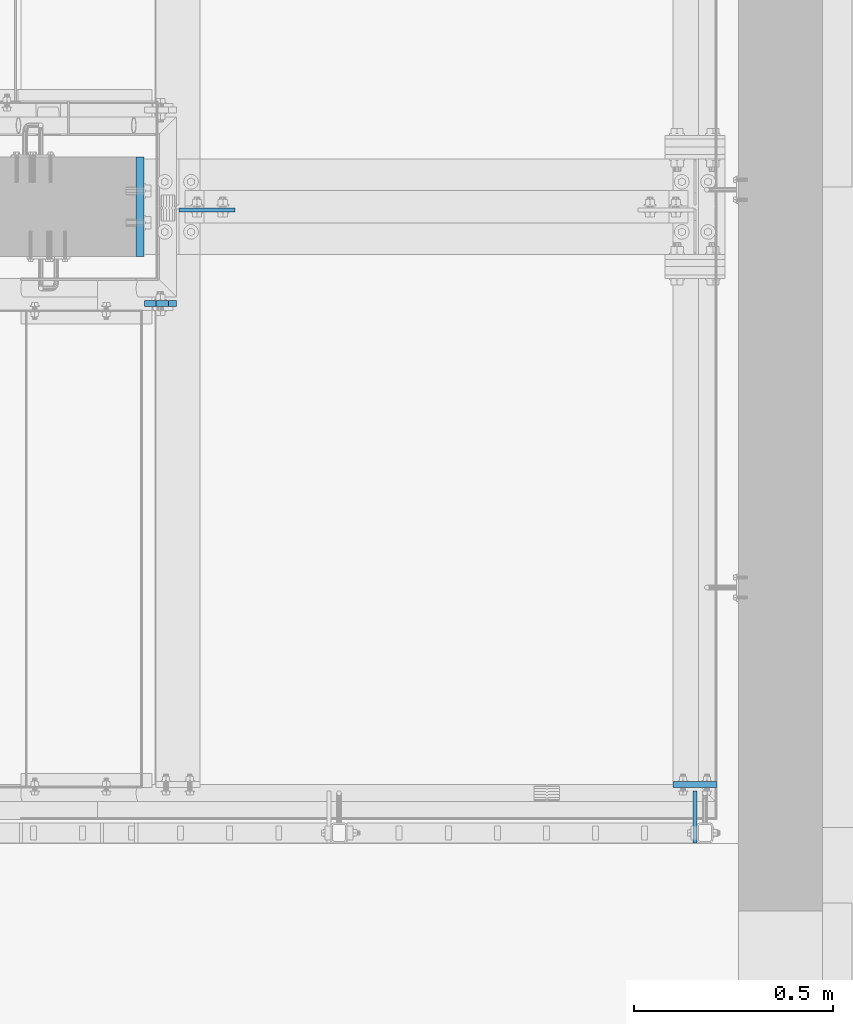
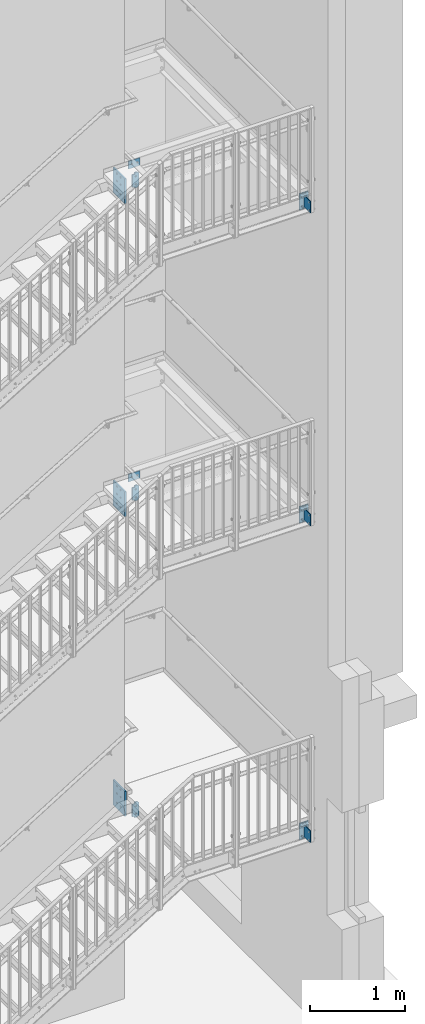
# One storey, part 62 of 410: 14 plates, 70 openings.
"""IFC2X3 building model written with IfcOpenShell, lengths in millimetres."""

import ifcopenshell
import ifcopenshell.guid

model = None  # the IFC model being written
_history = None  # IfcOwnerHistory: only IFC2X3 demands one
_inside = {}  # id of a spatial element -> (the spatial element, [elements in it])
_under = {}  # id of a project, library or spatial element -> (it, [spatial elements below it])
_declared = {}  # id of a project -> (the project, [libraries it declares])
_typed = {}  # id of a type object -> (the type object, [elements of that type])
_made_of = {}  # id of a material, layer set ... -> (it, [elements and type objects made of it])


def new_model(schema):
    """Start an empty IFC model of exactly this schema.

    Asked for "IFC4X3", IfcOpenShell would pick the latest addendum, in which some entities
    have other attributes; the version numbers below select the first issue.
    IFC2X3 requires an IfcOwnerHistory on every rooted entity: one is made here for all.
    """
    global model, _history
    if schema == "IFC4X3":
        model = ifcopenshell.file(schema_version=(4, 3, 0, 0))
    else:
        model = ifcopenshell.file(schema=schema)
    _inside.clear()
    _under.clear()
    _declared.clear()
    _typed.clear()
    _made_of.clear()
    _history = None
    if model.schema == "IFC2X3":
        org = make("IfcOrganization", Name="unknown")
        user = make(
            "IfcPersonAndOrganization",
            ThePerson=make("IfcPerson", FamilyName="unknown"),
            TheOrganization=org,
        )
        app = make(
            "IfcApplication",
            ApplicationDeveloper=org,
            Version="unknown",
            ApplicationFullName="unknown",
            ApplicationIdentifier="unknown",
        )
        _history = make(
            "IfcOwnerHistory",
            OwningUser=user,
            OwningApplication=app,
            ChangeAction="ADDED",
            CreationDate=0,
        )
    return model


def make(cls, **values):
    """One entity of the class cls with the attributes given. An attribute that is None is left unset."""
    return model.create_entity(
        cls, **{name: value for name, value in values.items() if value is not None}
    )


def entity(cls, *values):
    """Any entity or typed value of the class cls, its attributes in the order of the schema. None: left unset."""
    e = model.create_entity(cls)
    for i, value in enumerate(values):
        if value is not None:
            e[i] = value
    return e


def rooted(cls, **values):
    """An entity with a GlobalId (a new one), such as an element, a storey or a relation."""
    return make(cls, GlobalId=ifcopenshell.guid.new(), OwnerHistory=_history, **values)


def si_unit(unit_type, name, prefix=None):
    """IfcSIUnit, for example si_unit("LENGTHUNIT", "METRE", prefix="MILLI")."""
    return make("IfcSIUnit", UnitType=unit_type, Prefix=prefix, Name=name)


def converted_unit(unit_type, name, factor, base, dimensions=None, offset=None):
    """IfcConversionBasedUnit, such as the inch: factor (a typed value) times the base unit."""
    return make(
        "IfcConversionBasedUnit"
        if offset is None
        else "IfcConversionBasedUnitWithOffset",
        ConversionOffset=offset,
        Dimensions=None
        if dimensions is None
        else entity("IfcDimensionalExponents", *dimensions),
        UnitType=unit_type,
        Name=name,
        ConversionFactor=make(
            "IfcMeasureWithUnit", ValueComponent=factor, UnitComponent=base
        ),
    )


def assignment(units):
    """IfcUnitAssignment: the units of a project."""
    return None if units is None else make("IfcUnitAssignment", Units=units)


def point(xyz):
    """IfcCartesianPoint."""
    return None if xyz is None else make("IfcCartesianPoint", Coordinates=xyz)


def direction(xyz):
    """IfcDirection."""
    return None if xyz is None else make("IfcDirection", DirectionRatios=xyz)


def frame(location, z_axis=None, x_axis=None):
    """IfcAxis2Placement3D, a coordinate frame: its origin and axes. An axis left out is left unset."""
    return make(
        "IfcAxis2Placement3D",
        Location=point(location),
        Axis=direction(z_axis),
        RefDirection=direction(x_axis),
    )


def frame_2d(location, x_axis=None):
    """IfcAxis2Placement2D, a coordinate frame in the plane: its origin and x axis."""
    return make(
        "IfcAxis2Placement2D", Location=point(location), RefDirection=direction(x_axis)
    )


def origin():
    """The frame at (0, 0, 0) with its axes left unset."""
    return frame((0.0, 0.0, 0.0))


def origin_with_axes():
    """The frame at (0, 0, 0) with the z axis (0, 0, 1) and the x axis (1, 0, 0) written out."""
    return frame((0.0, 0.0, 0.0), z_axis=(0.0, 0.0, 1.0), x_axis=(1.0, 0.0, 0.0))


def origin_2d_with_axis():
    """The frame at (0, 0) in the plane with the x axis (1, 0) written out."""
    return frame_2d((0.0, 0.0), x_axis=(1.0, 0.0))


def place(relative_to, where):
    """IfcLocalPlacement: puts the frame where relative to a parent placement (None: the world)."""
    return make(
        "IfcLocalPlacement", PlacementRelTo=relative_to, RelativePlacement=where
    )


def context(
    kind, dimensions, precision=None, world=None, true_north=None, identifier=None
):
    """IfcGeometricRepresentationContext, for example the 3D "Model" context."""
    return make(
        "IfcGeometricRepresentationContext",
        ContextIdentifier=identifier,
        ContextType=kind,
        CoordinateSpaceDimension=dimensions,
        Precision=precision,
        WorldCoordinateSystem=world,
        TrueNorth=true_north,
    )


def project(units=None, contexts=None):
    """IfcProject with its units and contexts."""
    return rooted(
        "IfcProject",
        Name="project",
        RepresentationContexts=contexts,
        UnitsInContext=assignment(units),
    )


def spatial(cls, under=None, at=None, **own):
    """A site, building, storey or space (cls), placed at a placement, below another one or the project."""
    s = rooted(cls, ObjectPlacement=at, **own)
    if under is not None:
        _under.setdefault(under.id(), (under, []))[1].append(s)
    return s


def polyline(points):
    """IfcPolyline through the points."""
    return make("IfcPolyline", Points=[point(p) for p in points])


def profile(cls, at=None, kind="AREA", **sizes):
    """A parametric profile (cls). Its sizes go by their IFC names, for example OverallWidth=200.0."""
    return make(cls, ProfileType=kind, Position=at, **sizes)


def circle(**sizes):
    """IfcCircleProfileDef."""
    return profile("IfcCircleProfileDef", **sizes)


def outline(outer, holes=None, kind="AREA"):
    """IfcArbitraryClosedProfileDef: a profile drawn as a closed curve; with holes, ...WithVoids."""
    if holes is None:
        return make("IfcArbitraryClosedProfileDef", ProfileType=kind, OuterCurve=outer)
    return make(
        "IfcArbitraryProfileDefWithVoids",
        ProfileType=kind,
        OuterCurve=outer,
        InnerCurves=holes,
    )


def extrude(swept, where, along, depth):
    """IfcExtrudedAreaSolid: the profile swept, set in the frame where, extruded along a direction by depth."""
    return make(
        "IfcExtrudedAreaSolid",
        SweptArea=swept,
        Position=where,
        ExtrudedDirection=direction(along),
        Depth=depth,
    )


def shape(context_of_items, identifier, shape_type, items):
    """IfcShapeRepresentation: the items that make up one representation, for example the "Body"."""
    return make(
        "IfcShapeRepresentation",
        ContextOfItems=context_of_items,
        RepresentationIdentifier=identifier,
        RepresentationType=shape_type,
        Items=items,
    )


def material(Name=None, Category=None):
    """IfcMaterial."""
    return make("IfcMaterial", Name=Name, Category=Category)


def layer(
    of_material, thickness, ventilated=None, Name=None, Category=None, Priority=None
):
    """IfcMaterialLayer: one layer of a wall or slab, of a material (None: an air gap)."""
    return make(
        "IfcMaterialLayer",
        Material=of_material,
        LayerThickness=thickness,
        IsVentilated=ventilated,
        Name=Name,
        Category=Category,
        Priority=Priority,
    )


def layer_set(layers, Name=None):
    """IfcMaterialLayerSet."""
    return make("IfcMaterialLayerSet", MaterialLayers=layers, LayerSetName=Name)


def made_of(thing, what):
    """Note that an element or type object is made of a material, layer set ...; save() writes the relation."""
    if what is not None:
        _made_of.setdefault(what.id(), (what, []))[1].append(thing)
    return thing


def element(
    cls,
    number,
    at=None,
    inside=None,
    cuts=None,
    type_object=None,
    material=None,
    context=None,
    identifier="Body",
    shape_type=None,
    held_by="IfcProductDefinitionShape",
    body=None,
    shapes=None,
    **own,
):
    """One element of the class cls, such as IfcWall. Its Tag is "e" and its number.

    at: its placement. inside: the storey or other place that contains it. cuts: it is an
    opening in that element (IfcRelVoidsElement). A single representation is given by context,
    identifier, shape_type and body (its items); several are given by shapes. held_by: the class
    of the entity that holds the representations. save() writes the other relations.
    """
    e = rooted(cls, Tag="e%d" % number, ObjectPlacement=at, **own)
    if body is not None:
        shapes = [shape(context, identifier, shape_type, body)]
    if shapes is not None:
        e.Representation = make(held_by, Representations=shapes)
    if inside is not None:
        _inside.setdefault(inside.id(), (inside, []))[1].append(e)
    if cuts is not None:
        rooted(
            "IfcRelVoidsElement", RelatingBuildingElement=cuts, RelatedOpeningElement=e
        )
    if type_object is not None:
        _typed.setdefault(type_object.id(), (type_object, []))[1].append(e)
    return made_of(e, material)


def aggregate(whole, parts):
    """IfcRelAggregates: a whole, such as a stair, and the parts it consists of."""
    return rooted("IfcRelAggregates", RelatingObject=whole, RelatedObjects=parts)


def save(model, path):
    """Write the relations noted so far, then the file.

    IfcRelAggregates (storeys below a building ...), IfcRelContainedInSpatialStructure (elements
    in a storey), IfcRelDefinesByType, IfcRelAssociatesMaterial and IfcRelDeclares: one each for
    every whole, place, type object, material and project.
    """
    for whole, parts in _under.values():
        aggregate(whole, parts)
    for where, things in _inside.values():
        rooted(
            "IfcRelContainedInSpatialStructure",
            RelatedElements=things,
            RelatingStructure=where,
        )
    for kind, things in _typed.values():
        rooted("IfcRelDefinesByType", RelatedObjects=things, RelatingType=kind)
    for what, things in _made_of.values():
        rooted("IfcRelAssociatesMaterial", RelatedObjects=things, RelatingMaterial=what)
    for by, libraries in _declared.values():
        rooted("IfcRelDeclares", RelatingContext=by, RelatedDefinitions=libraries)
    model.write(path)


model = new_model("IFC2X3")

# Units and contexts
model_context = context("Model", 3, precision=1e-09, world=origin_with_axes())
ifc_project = project(units=[si_unit("LENGTHUNIT", "METRE", prefix="MILLI"), si_unit("AREAUNIT", "SQUARE_METRE"), si_unit("VOLUMEUNIT", "CUBIC_METRE"), converted_unit("PLANEANGLEUNIT", "DEGREE", entity("IfcPlaneAngleMeasure", 0.01745329), si_unit("PLANEANGLEUNIT", "RADIAN"), dimensions=[0, 0, 0, 0, 0, 0, 0])], contexts=[model_context])

# Site, building, storey
site_placement = place(None, origin_with_axes())
site = spatial("IfcSite", under=ifc_project, at=site_placement, Name="mKR Teilneubau & Sanierung BA1 - Ostfildern", CompositionType="ELEMENT")
building_placement = place(site_placement, origin_with_axes())
building = spatial("IfcBuilding", under=site, at=building_placement, Name="Struktur 1", CompositionType="ELEMENT")
storey_placement = place(building_placement, origin_with_axes())
storey = spatial("IfcBuildingStorey", under=building, at=storey_placement, Name="Default Storey", CompositionType="ELEMENT", Elevation=0.0)

# Plate, openings
ifc_material = material(Name="S235JR")
ifc_layer_1 = layer(ifc_material, 20.0)
ifc_layer_set_1 = layer_set([ifc_layer_1], Name="S235JR")
plate_1_placement = place(None, frame((1775.0, 16980.0, 1543.0434785), z_axis=(-1.0, 0.0, 0.0), x_axis=(0.0, -1.0, 0.0)))
plate_1 = element("IfcPlate", 1, at=plate_1_placement, inside=storey, material=ifc_layer_set_1, Name="-", ObjectType="-", context=model_context, shape_type="SweptSolid", body=[
    extrude(outline(polyline([(-125.0, -160.0), (125.0, -160.0), (125.0, 160.0), (-125.0, 160.0), (-125.0, -160.0)])), origin_with_axes(), (0.0, 0.0, -1.0), 20.0),
])
opening_1_placement = place(plate_1_placement, frame((-50.501, -85.0, 0.5), z_axis=(0.0, 0.0, 1.0), x_axis=(1.0, 0.0, 0.0)))
element("IfcOpeningElement", 2, at=opening_1_placement, cuts=plate_1, ObjectType="Opening", context=model_context, shape_type="SweptSolid", body=[
    extrude(circle(Radius=10.501, at=frame_2d((10.501, 0.0), x_axis=(1.0, 0.0))), origin(), (0.0, 0.0, -1.0), 21.0),
])
opening_2_placement = place(plate_1_placement, frame((29.499, 35.0, 0.5), z_axis=(0.0, 0.0, 1.0), x_axis=(1.0, 0.0, 0.0)))
element("IfcOpeningElement", 3, at=opening_2_placement, cuts=plate_1, ObjectType="Opening", context=model_context, shape_type="SweptSolid", body=[
    extrude(circle(Radius=10.501, at=frame_2d((10.501, 0.0), x_axis=(1.0, 0.0))), origin(), (0.0, 0.0, -1.0), 21.0),
])
opening_3_placement = place(plate_1_placement, frame((-50.501, 35.0, 0.5), z_axis=(0.0, 0.0, 1.0), x_axis=(1.0, 0.0, 0.0)))
element("IfcOpeningElement", 4, at=opening_3_placement, cuts=plate_1, ObjectType="Opening", context=model_context, shape_type="SweptSolid", body=[
    extrude(circle(Radius=10.501, at=frame_2d((10.501, 0.0), x_axis=(1.0, 0.0))), origin(), (0.0, 0.0, -1.0), 21.0),
])
opening_4_placement = place(plate_1_placement, frame((29.499, 130.0, 0.5), z_axis=(0.0, 0.0, 1.0), x_axis=(1.0, 0.0, 0.0)))
element("IfcOpeningElement", 5, at=opening_4_placement, cuts=plate_1, ObjectType="Opening", context=model_context, shape_type="SweptSolid", body=[
    extrude(circle(Radius=10.501, at=frame_2d((10.501, 0.0), x_axis=(1.0, 0.0))), origin(), (0.0, 0.0, -1.0), 21.0),
])
opening_5_placement = place(plate_1_placement, frame((-50.501, 130.0, 0.5), z_axis=(0.0, 0.0, 1.0), x_axis=(1.0, 0.0, 0.0)))
element("IfcOpeningElement", 6, at=opening_5_placement, cuts=plate_1, ObjectType="Opening", context=model_context, shape_type="SweptSolid", body=[
    extrude(circle(Radius=10.501, at=frame_2d((10.501, 0.0), x_axis=(1.0, 0.0))), origin(), (0.0, 0.0, -1.0), 21.0),
])
opening_6_placement = place(plate_1_placement, frame((29.499, -85.0, 0.5), z_axis=(0.0, 0.0, 1.0), x_axis=(1.0, 0.0, 0.0)))
element("IfcOpeningElement", 7, at=opening_6_placement, cuts=plate_1, ObjectType="Opening", context=model_context, shape_type="SweptSolid", body=[
    extrude(circle(Radius=10.501, at=frame_2d((10.501, 0.0), x_axis=(1.0, 0.0))), origin(), (0.0, 0.0, -1.0), 21.0),
])

plate_2_placement = place(None, frame((1775.0, 16980.0, -2295.599999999), z_axis=(-1.0, 0.0, 0.0), x_axis=(0.0, -1.0, 0.0)))
plate_2 = element("IfcPlate", 8, at=plate_2_placement, inside=storey, material=ifc_layer_set_1, Name="-", ObjectType="-", context=model_context, shape_type="SweptSolid", body=[
    extrude(outline(polyline([(-125.0, -160.0), (125.0, -160.0), (125.0, 160.0), (-125.0, 160.0), (-125.0, -160.0)])), origin_with_axes(), (0.0, 0.0, -1.0), 20.0),
])
opening_7_placement = place(plate_2_placement, frame((-50.501, 35.0, 0.5), z_axis=(0.0, 0.0, 1.0), x_axis=(1.0, 0.0, 0.0)))
element("IfcOpeningElement", 9, at=opening_7_placement, cuts=plate_2, ObjectType="Opening", context=model_context, shape_type="SweptSolid", body=[
    extrude(circle(Radius=10.501, at=frame_2d((10.501, 0.0), x_axis=(1.0, 0.0))), origin(), (0.0, 0.0, -1.0), 21.0),
])
opening_8_placement = place(plate_2_placement, frame((29.499, 35.0, 0.5), z_axis=(0.0, 0.0, 1.0), x_axis=(1.0, 0.0, 0.0)))
element("IfcOpeningElement", 10, at=opening_8_placement, cuts=plate_2, ObjectType="Opening", context=model_context, shape_type="SweptSolid", body=[
    extrude(circle(Radius=10.501, at=frame_2d((10.501, 0.0), x_axis=(1.0, 0.0))), origin(), (0.0, 0.0, -1.0), 21.0),
])
opening_9_placement = place(plate_2_placement, frame((29.499, -85.0, 0.5), z_axis=(0.0, 0.0, 1.0), x_axis=(1.0, 0.0, 0.0)))
element("IfcOpeningElement", 11, at=opening_9_placement, cuts=plate_2, ObjectType="Opening", context=model_context, shape_type="SweptSolid", body=[
    extrude(circle(Radius=10.501, at=frame_2d((10.501, 0.0), x_axis=(1.0, 0.0))), origin(), (0.0, 0.0, -1.0), 21.0),
])
opening_10_placement = place(plate_2_placement, frame((-50.501, -85.0, 0.5), z_axis=(0.0, 0.0, 1.0), x_axis=(1.0, 0.0, 0.0)))
element("IfcOpeningElement", 12, at=opening_10_placement, cuts=plate_2, ObjectType="Opening", context=model_context, shape_type="SweptSolid", body=[
    extrude(circle(Radius=10.501, at=frame_2d((10.501, 0.0), x_axis=(1.0, 0.0))), origin(), (0.0, 0.0, -1.0), 21.0),
])
opening_11_placement = place(plate_2_placement, frame((-50.501, 130.0, 0.5), z_axis=(0.0, 0.0, 1.0), x_axis=(1.0, 0.0, 0.0)))
element("IfcOpeningElement", 13, at=opening_11_placement, cuts=plate_2, ObjectType="Opening", context=model_context, shape_type="SweptSolid", body=[
    extrude(circle(Radius=10.501, at=frame_2d((10.501, 0.0), x_axis=(1.0, 0.0))), origin(), (0.0, 0.0, -1.0), 21.0),
])
opening_12_placement = place(plate_2_placement, frame((29.499, 130.0, 0.5), z_axis=(0.0, 0.0, 1.0), x_axis=(1.0, 0.0, 0.0)))
element("IfcOpeningElement", 14, at=opening_12_placement, cuts=plate_2, ObjectType="Opening", context=model_context, shape_type="SweptSolid", body=[
    extrude(circle(Radius=10.501, at=frame_2d((10.501, 0.0), x_axis=(1.0, 0.0))), origin(), (0.0, 0.0, -1.0), 21.0),
])

ifc_layer_2 = layer(ifc_material, 15.0)
ifc_layer_set_2 = layer_set([ifc_layer_2], Name="S235JR")
plate_3_placement = place(None, frame((3180.001468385, 15535.0, 5755.000000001), z_axis=(0.0, -1.0, 0.0), x_axis=(1.0, 0.0, 0.0)))
plate_3 = element("IfcPlate", 15, at=plate_3_placement, inside=storey, material=ifc_layer_set_2, Name="-", ObjectType="-", context=model_context, shape_type="SweptSolid", body=[
    extrude(outline(polyline([(-55.0, -105.0), (55.0, -105.0), (55.0, 105.0), (-55.0, 105.0), (-55.0, -105.0)])), origin_with_axes(), (0.0, 0.0, 1.0), 15.0),
])
opening_13_placement = place(plate_3_placement, frame((2.9e-08, 1.5e-08, -0.5), z_axis=(0.0, 0.0, 1.0), x_axis=(1.0, 0.0, 0.0)))
element("IfcOpeningElement", 16, at=opening_13_placement, cuts=plate_3, ObjectType="Opening", context=model_context, shape_type="SweptSolid", body=[
    extrude(circle(Radius=7.001, at=frame_2d((30.0, 60.0), x_axis=(1.0, 0.0))), origin(), (0.0, 0.0, 1.0), 16.0),
])
opening_14_placement = place(plate_3_placement, frame((2.9e-08, 1.5e-08, -0.5), z_axis=(0.0, 0.0, 1.0), x_axis=(1.0, 0.0, 0.0)))
element("IfcOpeningElement", 17, at=opening_14_placement, cuts=plate_3, ObjectType="Opening", context=model_context, shape_type="SweptSolid", body=[
    extrude(circle(Radius=7.001, at=frame_2d((-30.0, 60.0), x_axis=(1.0, 0.0))), origin(), (0.0, 0.0, 1.0), 16.0),
])
opening_15_placement = place(plate_3_placement, frame((2.9e-08, 1.5e-08, -0.5), z_axis=(0.0, 0.0, 1.0), x_axis=(1.0, 0.0, 0.0)))
element("IfcOpeningElement", 18, at=opening_15_placement, cuts=plate_3, ObjectType="Opening", context=model_context, shape_type="SweptSolid", body=[
    extrude(circle(Radius=7.001, at=frame_2d((30.0, -60.0), x_axis=(1.0, 0.0))), origin(), (0.0, 0.0, 1.0), 16.0),
])
opening_16_placement = place(plate_3_placement, frame((2.9e-08, 1.5e-08, -0.5), z_axis=(0.0, 0.0, 1.0), x_axis=(1.0, 0.0, 0.0)))
element("IfcOpeningElement", 19, at=opening_16_placement, cuts=plate_3, ObjectType="Opening", context=model_context, shape_type="SweptSolid", body=[
    extrude(circle(Radius=7.001, at=frame_2d((-30.0, -60.0), x_axis=(1.0, 0.0))), origin(), (0.0, 0.0, 1.0), 16.0),
])
opening_17_placement = place(plate_3_placement, frame((14.95, 88.8, 15.5), z_axis=(0.0, 0.0, -1.0), x_axis=(0.0, 1.0, 0.0)))
element("IfcOpeningElement", 20, at=opening_17_placement, cuts=plate_3, ObjectType="Opening", context=model_context, shape_type="SweptSolid", body=[
    extrude(circle(Radius=6.001, at=origin_2d_with_axis()), origin(), (0.0, 0.0, 1.0), 16.0),
])
opening_18_placement = place(plate_3_placement, frame((14.95, -88.8, 15.5), z_axis=(0.0, 0.0, -1.0), x_axis=(0.0, 1.0, 0.0)))
element("IfcOpeningElement", 21, at=opening_18_placement, cuts=plate_3, ObjectType="Opening", context=model_context, shape_type="SweptSolid", body=[
    extrude(circle(Radius=6.001, at=origin_2d_with_axis()), origin(), (0.0, 0.0, 1.0), 16.0),
])
opening_19_placement = place(plate_3_placement, frame((-14.95, -88.8, 15.5), z_axis=(0.0, 0.0, -1.0), x_axis=(0.0, 1.0, 0.0)))
element("IfcOpeningElement", 22, at=opening_19_placement, cuts=plate_3, ObjectType="Opening", context=model_context, shape_type="SweptSolid", body=[
    extrude(circle(Radius=6.001, at=origin_2d_with_axis()), origin(), (0.0, 0.0, 1.0), 16.0),
])
opening_20_placement = place(plate_3_placement, frame((-14.95, 88.8, 15.5), z_axis=(0.0, 0.0, -1.0), x_axis=(0.0, 1.0, 0.0)))
element("IfcOpeningElement", 23, at=opening_20_placement, cuts=plate_3, ObjectType="Opening", context=model_context, shape_type="SweptSolid", body=[
    extrude(circle(Radius=6.001, at=origin_2d_with_axis()), origin(), (0.0, 0.0, 1.0), 16.0),
])

plate_4_placement = place(None, frame((3180.001468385, 15535.000000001, -2315.599999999), z_axis=(0.0, -1.0, 0.0), x_axis=(1.0, 0.0, 0.0)))
plate_4 = element("IfcPlate", 24, at=plate_4_placement, inside=storey, material=ifc_layer_set_2, Name="-", ObjectType="-", context=model_context, shape_type="SweptSolid", body=[
    extrude(outline(polyline([(-55.0, -105.0), (55.0, -105.0), (55.0, 105.0), (-55.0, 105.0), (-55.0, -105.0)])), origin_with_axes(), (0.0, 0.0, 1.0), 15.0),
])
opening_21_placement = place(plate_4_placement, frame((2.9e-08, 1.5e-08, -0.5), z_axis=(0.0, 0.0, 1.0), x_axis=(1.0, 0.0, 0.0)))
element("IfcOpeningElement", 25, at=opening_21_placement, cuts=plate_4, ObjectType="Opening", context=model_context, shape_type="SweptSolid", body=[
    extrude(circle(Radius=7.001, at=frame_2d((30.0, 60.0), x_axis=(1.0, 0.0))), origin(), (0.0, 0.0, 1.0), 16.0),
])
opening_22_placement = place(plate_4_placement, frame((2.9e-08, 1.5e-08, -0.5), z_axis=(0.0, 0.0, 1.0), x_axis=(1.0, 0.0, 0.0)))
element("IfcOpeningElement", 26, at=opening_22_placement, cuts=plate_4, ObjectType="Opening", context=model_context, shape_type="SweptSolid", body=[
    extrude(circle(Radius=7.001, at=frame_2d((-30.0, 60.0), x_axis=(1.0, 0.0))), origin(), (0.0, 0.0, 1.0), 16.0),
])
opening_23_placement = place(plate_4_placement, frame((2.9e-08, 1.5e-08, -0.5), z_axis=(0.0, 0.0, 1.0), x_axis=(1.0, 0.0, 0.0)))
element("IfcOpeningElement", 27, at=opening_23_placement, cuts=plate_4, ObjectType="Opening", context=model_context, shape_type="SweptSolid", body=[
    extrude(circle(Radius=7.001, at=frame_2d((30.0, -60.0), x_axis=(1.0, 0.0))), origin(), (0.0, 0.0, 1.0), 16.0),
])
opening_24_placement = place(plate_4_placement, frame((2.9e-08, 1.5e-08, -0.5), z_axis=(0.0, 0.0, 1.0), x_axis=(1.0, 0.0, 0.0)))
element("IfcOpeningElement", 28, at=opening_24_placement, cuts=plate_4, ObjectType="Opening", context=model_context, shape_type="SweptSolid", body=[
    extrude(circle(Radius=7.001, at=frame_2d((-30.0, -60.0), x_axis=(1.0, 0.0))), origin(), (0.0, 0.0, 1.0), 16.0),
])
opening_25_placement = place(plate_4_placement, frame((14.95, 88.8, 15.5), z_axis=(0.0, 0.0, -1.0), x_axis=(0.0, 1.0, 0.0)))
element("IfcOpeningElement", 29, at=opening_25_placement, cuts=plate_4, ObjectType="Opening", context=model_context, shape_type="SweptSolid", body=[
    extrude(circle(Radius=6.001, at=origin_2d_with_axis()), origin(), (0.0, 0.0, 1.0), 16.0),
])
opening_26_placement = place(plate_4_placement, frame((14.95, -88.8, 15.5), z_axis=(0.0, 0.0, -1.0), x_axis=(0.0, 1.0, 0.0)))
element("IfcOpeningElement", 30, at=opening_26_placement, cuts=plate_4, ObjectType="Opening", context=model_context, shape_type="SweptSolid", body=[
    extrude(circle(Radius=6.001, at=origin_2d_with_axis()), origin(), (0.0, 0.0, 1.0), 16.0),
])
opening_27_placement = place(plate_4_placement, frame((-14.95, -88.8, 15.5), z_axis=(0.0, 0.0, -1.0), x_axis=(0.0, 1.0, 0.0)))
element("IfcOpeningElement", 31, at=opening_27_placement, cuts=plate_4, ObjectType="Opening", context=model_context, shape_type="SweptSolid", body=[
    extrude(circle(Radius=6.001, at=origin_2d_with_axis()), origin(), (0.0, 0.0, 1.0), 16.0),
])
opening_28_placement = place(plate_4_placement, frame((-14.95, 88.8, 15.5), z_axis=(0.0, 0.0, -1.0), x_axis=(0.0, 1.0, 0.0)))
element("IfcOpeningElement", 32, at=opening_28_placement, cuts=plate_4, ObjectType="Opening", context=model_context, shape_type="SweptSolid", body=[
    extrude(circle(Radius=6.001, at=origin_2d_with_axis()), origin(), (0.0, 0.0, 1.0), 16.0),
])

plate_5_placement = place(None, frame((1876.051468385, 16728.999999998, -2216.299999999), z_axis=(0.0, -1.0, 0.0), x_axis=(-1.0, 0.0, 0.0)))
plate_5 = element("IfcPlate", 33, at=plate_5_placement, inside=storey, material=ifc_layer_set_2, Name="LugPlate#1", ObjectType="LugPlate#1", context=model_context, shape_type="SweptSolid", body=[
    extrude(outline(polyline([(0.0, 0.0), (80.0, 0.0), (80.0, 198.6), (0.0, 198.6), (0.0, 0.0)])), origin_with_axes(), (0.0, 0.0, -1.0), 15.0),
])
opening_29_placement = place(plate_5_placement, frame((0.0, 0.0, 0.01), z_axis=(0.0, 0.0, 1.0), x_axis=(1.0, 0.0, 0.0)))
element("IfcOpeningElement", 34, at=opening_29_placement, cuts=plate_5, ObjectType="Opening", context=model_context, shape_type="SweptSolid", body=[
    extrude(outline(polyline([(0.0, 0.0), (20.0, 0.0), (0.0, 20.0), (0.0, 0.0)])), origin(), (0.0, 0.0, -1.0), 15.02),
])
opening_30_placement = place(plate_5_placement, frame((0.0, 198.6, 0.01), z_axis=(0.0, 0.0, 1.0), x_axis=(0.0, -1.0, 0.0)))
element("IfcOpeningElement", 35, at=opening_30_placement, cuts=plate_5, ObjectType="Opening", context=model_context, shape_type="SweptSolid", body=[
    extrude(outline(polyline([(0.0, 0.0), (20.0, 0.0), (0.0, 20.0), (0.0, 0.0)])), origin(), (0.0, 0.0, -1.0), 15.02),
])
opening_31_placement = place(plate_5_placement, frame((98.349872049, 19.301, -15.1), z_axis=(0.0, 0.0, -1.0), x_axis=(0.0, -1.0, 0.0)))
element("IfcOpeningElement", 36, at=opening_31_placement, cuts=plate_5, ObjectType="Opening", context=model_context, shape_type="SweptSolid", body=[
    extrude(outline(polyline([(0.0, 0.0), (30.001999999, 0.0), (30.001999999, 47.300872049), (0.0, 47.300872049), (0.0, 0.0)])), origin(), (0.0, 0.0, -1.0), 15.2),
])
opening_32_placement = place(plate_5_placement, frame((97.567889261, 209.301, -15.1), z_axis=(0.0, 0.0, -1.0), x_axis=(0.0, -1.0, 0.0)))
element("IfcOpeningElement", 37, at=opening_32_placement, cuts=plate_5, ObjectType="Opening", context=model_context, shape_type="SweptSolid", body=[
    extrude(outline(polyline([(0.0, 0.0), (30.002, 0.0), (30.002, 46.518889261), (0.0, 46.518889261), (0.0, 0.0)])), origin(), (0.0, 0.0, -1.0), 15.2),
])
opening_33_placement = place(plate_5_placement, frame((40.0, 49.300000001, -15.5), z_axis=(0.0, 0.0, 1.0), x_axis=(1.0, 0.0, 0.0)))
element("IfcOpeningElement", 38, at=opening_33_placement, cuts=plate_5, ObjectType="Opening", context=model_context, shape_type="SweptSolid", body=[
    extrude(circle(Radius=9.001, at=frame_2d((0.0, 100.0), x_axis=(1.0, 0.0))), origin(), (0.0, 0.0, 1.0), 16.0),
])
opening_34_placement = place(plate_5_placement, frame((40.0, 49.300000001, -15.5), z_axis=(0.0, 0.0, 1.0), x_axis=(1.0, 0.0, 0.0)))
element("IfcOpeningElement", 39, at=opening_34_placement, cuts=plate_5, ObjectType="Opening", context=model_context, shape_type="SweptSolid", body=[
    extrude(circle(Radius=9.001, at=origin_2d_with_axis()), origin(), (0.0, 0.0, 1.0), 16.0),
])

plate_6_placement = place(None, frame((1876.051468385, 16728.999999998, 1842.3434785), z_axis=(0.0, -1.0, 0.0), x_axis=(-1.0, 0.0, 0.0)))
plate_6 = element("IfcPlate", 40, at=plate_6_placement, inside=storey, material=ifc_layer_set_2, Name="LugPlate#1", ObjectType="LugPlate#1", context=model_context, shape_type="SweptSolid", body=[
    extrude(outline(polyline([(0.0, 0.0), (80.0, 0.0), (80.0, 198.6), (0.0, 198.6), (0.0, 0.0)])), origin_with_axes(), (0.0, 0.0, -1.0), 15.0),
])
opening_35_placement = place(plate_6_placement, frame((0.0, 0.0, 0.01), z_axis=(0.0, 0.0, 1.0), x_axis=(1.0, 0.0, 0.0)))
element("IfcOpeningElement", 41, at=opening_35_placement, cuts=plate_6, ObjectType="Opening", context=model_context, shape_type="SweptSolid", body=[
    extrude(outline(polyline([(0.0, 0.0), (20.0, 0.0), (0.0, 20.0), (0.0, 0.0)])), origin(), (0.0, 0.0, -1.0), 15.02),
])
opening_36_placement = place(plate_6_placement, frame((0.0, 198.6, 0.01), z_axis=(0.0, 0.0, 1.0), x_axis=(0.0, -1.0, 0.0)))
element("IfcOpeningElement", 42, at=opening_36_placement, cuts=plate_6, ObjectType="Opening", context=model_context, shape_type="SweptSolid", body=[
    extrude(outline(polyline([(0.0, 0.0), (20.0, 0.0), (0.0, 20.0), (0.0, 0.0)])), origin(), (0.0, 0.0, -1.0), 15.02),
])
opening_37_placement = place(plate_6_placement, frame((100.429268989, 19.301, -15.1), z_axis=(0.0, 0.0, -1.0), x_axis=(0.0, -1.0, 0.0)))
element("IfcOpeningElement", 43, at=opening_37_placement, cuts=plate_6, ObjectType="Opening", context=model_context, shape_type="SweptSolid", body=[
    extrude(outline(polyline([(0.0, 0.0), (30.001999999, 0.0), (30.001999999, 49.380268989), (0.0, 49.380268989), (0.0, 0.0)])), origin(), (0.0, 0.0, -1.0), 15.2),
])
opening_38_placement = place(plate_6_placement, frame((114.515390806, 209.301, -15.1), z_axis=(0.0, 0.0, -1.0), x_axis=(0.0, -1.0, 0.0)))
element("IfcOpeningElement", 44, at=opening_38_placement, cuts=plate_6, ObjectType="Opening", context=model_context, shape_type="SweptSolid", body=[
    extrude(outline(polyline([(0.0, 0.0), (30.002, 0.0), (30.002, 63.466390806), (0.0, 63.466390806), (0.0, 0.0)])), origin(), (0.0, 0.0, -1.0), 15.2),
])
opening_39_placement = place(plate_6_placement, frame((40.0, 49.300000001, -15.5), z_axis=(0.0, 0.0, 1.0), x_axis=(1.0, 0.0, 0.0)))
element("IfcOpeningElement", 45, at=opening_39_placement, cuts=plate_6, ObjectType="Opening", context=model_context, shape_type="SweptSolid", body=[
    extrude(circle(Radius=9.001, at=frame_2d((0.0, 100.0), x_axis=(1.0, 0.0))), origin(), (0.0, 0.0, 1.0), 16.0),
])
opening_40_placement = place(plate_6_placement, frame((40.0, 49.300000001, -15.5), z_axis=(0.0, 0.0, 1.0), x_axis=(1.0, 0.0, 0.0)))
element("IfcOpeningElement", 46, at=opening_40_placement, cuts=plate_6, ObjectType="Opening", context=model_context, shape_type="SweptSolid", body=[
    extrude(circle(Radius=9.001, at=origin_2d_with_axis()), origin(), (0.0, 0.0, 1.0), 16.0),
])

plate_7_placement = place(None, frame((1876.051468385, 16728.999999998, 5854.300000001), z_axis=(0.0, -1.0, 0.0), x_axis=(-1.0, 0.0, 0.0)))
plate_7 = element("IfcPlate", 47, at=plate_7_placement, inside=storey, material=ifc_layer_set_2, Name="LugPlate#1", ObjectType="LugPlate#1", context=model_context, shape_type="SweptSolid", body=[
    extrude(outline(polyline([(0.0, 0.0), (80.0, 0.0), (80.0, 198.6), (0.0, 198.6), (0.0, 0.0)])), origin_with_axes(), (0.0, 0.0, -1.0), 15.0),
])
opening_41_placement = place(plate_7_placement, frame((0.0, 0.0, 0.01), z_axis=(0.0, 0.0, 1.0), x_axis=(1.0, 0.0, 0.0)))
element("IfcOpeningElement", 48, at=opening_41_placement, cuts=plate_7, ObjectType="Opening", context=model_context, shape_type="SweptSolid", body=[
    extrude(outline(polyline([(0.0, 0.0), (20.0, 0.0), (0.0, 20.0), (0.0, 0.0)])), origin(), (0.0, 0.0, -1.0), 15.02),
])
opening_42_placement = place(plate_7_placement, frame((0.0, 198.6, 0.01), z_axis=(0.0, 0.0, 1.0), x_axis=(0.0, -1.0, 0.0)))
element("IfcOpeningElement", 49, at=opening_42_placement, cuts=plate_7, ObjectType="Opening", context=model_context, shape_type="SweptSolid", body=[
    extrude(outline(polyline([(0.0, 0.0), (20.0, 0.0), (0.0, 20.0), (0.0, 0.0)])), origin(), (0.0, 0.0, -1.0), 15.02),
])
opening_43_placement = place(plate_7_placement, frame((99.857709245, 209.301, -15.1), z_axis=(0.0, 0.0, -1.0), x_axis=(0.0, -1.0, 0.0)))
element("IfcOpeningElement", 50, at=opening_43_placement, cuts=plate_7, ObjectType="Opening", context=model_context, shape_type="SweptSolid", body=[
    extrude(outline(polyline([(0.0, 0.0), (30.002, 0.0), (30.002, 48.808709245), (0.0, 48.808709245), (0.0, 0.0)])), origin(), (0.0, 0.0, -1.0), 15.2),
])
opening_44_placement = place(plate_7_placement, frame((95.314579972, 19.301, -15.1), z_axis=(0.0, 0.0, -1.0), x_axis=(0.0, -1.0, 0.0)))
element("IfcOpeningElement", 51, at=opening_44_placement, cuts=plate_7, ObjectType="Opening", context=model_context, shape_type="SweptSolid", body=[
    extrude(outline(polyline([(0.0, 0.0), (30.001999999, 0.0), (30.001999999, 44.265579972), (0.0, 44.265579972), (0.0, 0.0)])), origin(), (0.0, 0.0, -1.0), 15.2),
])
opening_45_placement = place(plate_7_placement, frame((40.0, 49.300000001, -15.5), z_axis=(0.0, 0.0, 1.0), x_axis=(1.0, 0.0, 0.0)))
element("IfcOpeningElement", 52, at=opening_45_placement, cuts=plate_7, ObjectType="Opening", context=model_context, shape_type="SweptSolid", body=[
    extrude(circle(Radius=9.001, at=frame_2d((0.0, 100.0), x_axis=(1.0, 0.0))), origin(), (0.0, 0.0, 1.0), 16.0),
])
opening_46_placement = place(plate_7_placement, frame((40.0, 49.300000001, -15.5), z_axis=(0.0, 0.0, 1.0), x_axis=(1.0, 0.0, 0.0)))
element("IfcOpeningElement", 53, at=opening_46_placement, cuts=plate_7, ObjectType="Opening", context=model_context, shape_type="SweptSolid", body=[
    extrude(circle(Radius=9.001, at=origin_2d_with_axis()), origin(), (0.0, 0.0, 1.0), 16.0),
])

plate_8_placement = place(None, frame((1775.0, 16980.0, 5555.0), z_axis=(-1.0, 0.0, 0.0), x_axis=(0.0, -1.0, 0.0)))
plate_8 = element("IfcPlate", 54, at=plate_8_placement, inside=storey, material=ifc_layer_set_1, Name="-", ObjectType="-", context=model_context, shape_type="SweptSolid", body=[
    extrude(outline(polyline([(-125.0, -160.0), (125.0, -160.0), (125.0, 160.0), (-125.0, 160.0), (-125.0, -160.0)])), origin_with_axes(), (0.0, 0.0, -1.0), 20.0),
])
opening_47_placement = place(plate_8_placement, frame((29.499, -85.0, 0.5), z_axis=(0.0, 0.0, 1.0), x_axis=(1.0, 0.0, 0.0)))
element("IfcOpeningElement", 55, at=opening_47_placement, cuts=plate_8, ObjectType="Opening", context=model_context, shape_type="SweptSolid", body=[
    extrude(circle(Radius=10.501, at=frame_2d((10.501, 0.0), x_axis=(1.0, 0.0))), origin(), (0.0, 0.0, -1.0), 21.0),
])
opening_48_placement = place(plate_8_placement, frame((-50.501, 130.0, 0.5), z_axis=(0.0, 0.0, 1.0), x_axis=(1.0, 0.0, 0.0)))
element("IfcOpeningElement", 56, at=opening_48_placement, cuts=plate_8, ObjectType="Opening", context=model_context, shape_type="SweptSolid", body=[
    extrude(circle(Radius=10.501, at=frame_2d((10.501, 0.0), x_axis=(1.0, 0.0))), origin(), (0.0, 0.0, -1.0), 21.0),
])
opening_49_placement = place(plate_8_placement, frame((29.499, 130.0, 0.5), z_axis=(0.0, 0.0, 1.0), x_axis=(1.0, 0.0, 0.0)))
element("IfcOpeningElement", 57, at=opening_49_placement, cuts=plate_8, ObjectType="Opening", context=model_context, shape_type="SweptSolid", body=[
    extrude(circle(Radius=10.501, at=frame_2d((10.501, 0.0), x_axis=(1.0, 0.0))), origin(), (0.0, 0.0, -1.0), 21.0),
])
opening_50_placement = place(plate_8_placement, frame((-50.501, 35.0, 0.5), z_axis=(0.0, 0.0, 1.0), x_axis=(1.0, 0.0, 0.0)))
element("IfcOpeningElement", 58, at=opening_50_placement, cuts=plate_8, ObjectType="Opening", context=model_context, shape_type="SweptSolid", body=[
    extrude(circle(Radius=10.501, at=frame_2d((10.501, 0.0), x_axis=(1.0, 0.0))), origin(), (0.0, 0.0, -1.0), 21.0),
])
opening_51_placement = place(plate_8_placement, frame((29.499, 35.0, 0.5), z_axis=(0.0, 0.0, 1.0), x_axis=(1.0, 0.0, 0.0)))
element("IfcOpeningElement", 59, at=opening_51_placement, cuts=plate_8, ObjectType="Opening", context=model_context, shape_type="SweptSolid", body=[
    extrude(circle(Radius=10.501, at=frame_2d((10.501, 0.0), x_axis=(1.0, 0.0))), origin(), (0.0, 0.0, -1.0), 21.0),
])
opening_52_placement = place(plate_8_placement, frame((-50.501, -85.0, 0.5), z_axis=(0.0, 0.0, 1.0), x_axis=(1.0, 0.0, 0.0)))
element("IfcOpeningElement", 60, at=opening_52_placement, cuts=plate_8, ObjectType="Opening", context=model_context, shape_type="SweptSolid", body=[
    extrude(circle(Radius=10.501, at=frame_2d((10.501, 0.0), x_axis=(1.0, 0.0))), origin(), (0.0, 0.0, -1.0), 21.0),
])

ifc_layer_3 = layer(ifc_material, 10.0)
ifc_layer_set_3 = layer_set([ifc_layer_3], Name="S235JR")
plate_9_placement = place(None, frame((1952.951468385, 16977.5, 1773.0434785), z_axis=(0.0, -1.0, 0.0), x_axis=(1.0, 0.0, 0.0)))
plate_9 = element("IfcPlate", 61, at=plate_9_placement, inside=storey, material=ifc_layer_set_3, Name="-", ObjectType="-", context=model_context, shape_type="SweptSolid", body=[
    extrude(outline(polyline([(-70.0, -50.0), (70.0, -50.0), (70.0, 50.0), (-70.0, 50.0), (-70.0, -50.0)])), origin_with_axes(), (0.0, 0.0, 1.0), 10.0),
])
opening_53_placement = place(plate_9_placement, frame((7.5, 0.0, -0.5), z_axis=(0.0, 0.0, 1.0), x_axis=(1.0, 0.0, 0.0)))
element("IfcOpeningElement", 62, at=opening_53_placement, cuts=plate_9, ObjectType="Opening", context=model_context, shape_type="SweptSolid", body=[
    extrude(circle(Radius=9.001, at=frame_2d((32.5, 0.0), x_axis=(1.0, 0.0))), origin(), (0.0, 0.0, 1.0), 11.0),
])
opening_54_placement = place(plate_9_placement, frame((7.5, 0.0, -0.5), z_axis=(0.0, 0.0, 1.0), x_axis=(1.0, 0.0, 0.0)))
element("IfcOpeningElement", 63, at=opening_54_placement, cuts=plate_9, ObjectType="Opening", context=model_context, shape_type="SweptSolid", body=[
    extrude(circle(Radius=9.001, at=frame_2d((-32.5, 0.0), x_axis=(1.0, 0.0))), origin(), (0.0, 0.0, 1.0), 11.0),
])

plate_10_placement = place(None, frame((1952.951468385, 16977.5, 5785.0), z_axis=(0.0, -1.0, 0.0), x_axis=(1.0, 0.0, 0.0)))
plate_10 = element("IfcPlate", 64, at=plate_10_placement, inside=storey, material=ifc_layer_set_3, Name="-", ObjectType="-", context=model_context, shape_type="SweptSolid", body=[
    extrude(outline(polyline([(-70.0, -50.0), (70.0, -50.0), (70.0, 50.0), (-70.0, 50.0), (-70.0, -50.0)])), origin_with_axes(), (0.0, 0.0, 1.0), 10.0),
])
opening_55_placement = place(plate_10_placement, frame((7.5, 0.0, -0.5), z_axis=(0.0, 0.0, 1.0), x_axis=(1.0, 0.0, 0.0)))
element("IfcOpeningElement", 65, at=opening_55_placement, cuts=plate_10, ObjectType="Opening", context=model_context, shape_type="SweptSolid", body=[
    extrude(circle(Radius=9.001, at=frame_2d((32.5, 0.0), x_axis=(1.0, 0.0))), origin(), (0.0, 0.0, 1.0), 11.0),
])
opening_56_placement = place(plate_10_placement, frame((7.5, 0.0, -0.5), z_axis=(0.0, 0.0, 1.0), x_axis=(1.0, 0.0, 0.0)))
element("IfcOpeningElement", 66, at=opening_56_placement, cuts=plate_10, ObjectType="Opening", context=model_context, shape_type="SweptSolid", body=[
    extrude(circle(Radius=9.001, at=frame_2d((-32.5, 0.0), x_axis=(1.0, 0.0))), origin(), (0.0, 0.0, 1.0), 11.0),
])

plate_11_placement = place(None, frame((3185.001468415, 15445.999999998, 5755.0), z_axis=(-1.0, 0.0, 0.0), x_axis=(0.0, -1.0, 0.0)))
plate_11 = element("IfcPlate", 67, at=plate_11_placement, inside=storey, material=ifc_layer_set_3, Name="-", ObjectType="-", context=model_context, shape_type="SweptSolid", body=[
    extrude(outline(polyline([(-65.0, -75.0), (65.0, -75.0), (65.0, 75.0), (-65.0, 75.0), (-65.0, -75.0)])), origin_with_axes(), (0.0, 0.0, 1.0), 10.0),
])
opening_57_placement = place(plate_11_placement, frame((40.0, 0.0, -0.5), z_axis=(0.0, 0.0, 1.0), x_axis=(1.0, 0.0, 0.0)))
element("IfcOpeningElement", 68, at=opening_57_placement, cuts=plate_11, ObjectType="Opening", context=model_context, shape_type="SweptSolid", body=[
    extrude(circle(Radius=7.001, at=frame_2d((0.0, 50.0), x_axis=(1.0, 0.0))), origin(), (0.0, 0.0, 1.0), 11.0),
])
opening_58_placement = place(plate_11_placement, frame((40.0, 0.0, -0.5), z_axis=(0.0, 0.0, 1.0), x_axis=(1.0, 0.0, 0.0)))
element("IfcOpeningElement", 69, at=opening_58_placement, cuts=plate_11, ObjectType="Opening", context=model_context, shape_type="SweptSolid", body=[
    extrude(circle(Radius=7.001, at=frame_2d((0.0, -50.0), x_axis=(1.0, 0.0))), origin(), (0.0, 0.0, 1.0), 11.0),
])

plate_12_placement = place(None, frame((3185.001468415, 15445.999999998, 1743.0434785), z_axis=(-1.0, 0.0, 0.0), x_axis=(0.0, -1.0, 0.0)))
plate_12 = element("IfcPlate", 70, at=plate_12_placement, inside=storey, material=ifc_layer_set_3, Name="-", ObjectType="-", context=model_context, shape_type="SweptSolid", body=[
    extrude(outline(polyline([(-65.0, -75.0), (65.0, -75.0), (65.0, 75.0), (-65.0, 75.0), (-65.0, -75.0)])), origin_with_axes(), (0.0, 0.0, 1.0), 10.0),
])
opening_59_placement = place(plate_12_placement, frame((40.0, 0.0, -0.5), z_axis=(0.0, 0.0, 1.0), x_axis=(1.0, 0.0, 0.0)))
element("IfcOpeningElement", 71, at=opening_59_placement, cuts=plate_12, ObjectType="Opening", context=model_context, shape_type="SweptSolid", body=[
    extrude(circle(Radius=7.001, at=frame_2d((0.0, 50.0), x_axis=(1.0, 0.0))), origin(), (0.0, 0.0, 1.0), 11.0),
])
opening_60_placement = place(plate_12_placement, frame((40.0, 0.0, -0.5), z_axis=(0.0, 0.0, 1.0), x_axis=(1.0, 0.0, 0.0)))
element("IfcOpeningElement", 72, at=opening_60_placement, cuts=plate_12, ObjectType="Opening", context=model_context, shape_type="SweptSolid", body=[
    extrude(circle(Radius=7.001, at=frame_2d((0.0, -50.0), x_axis=(1.0, 0.0))), origin(), (0.0, 0.0, 1.0), 11.0),
])

plate_13_placement = place(None, frame((3185.001468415, 15445.999999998, -2315.6), z_axis=(-1.0, 0.0, 0.0), x_axis=(0.0, -1.0, 0.0)))
plate_13 = element("IfcPlate", 73, at=plate_13_placement, inside=storey, material=ifc_layer_set_3, Name="-", ObjectType="-", context=model_context, shape_type="SweptSolid", body=[
    extrude(outline(polyline([(-65.0, -75.0), (65.0, -75.0), (65.0, 75.0), (-65.0, 75.0), (-65.0, -75.0)])), origin_with_axes(), (0.0, 0.0, 1.0), 10.0),
])
opening_61_placement = place(plate_13_placement, frame((40.0, 0.0, -0.5), z_axis=(0.0, 0.0, 1.0), x_axis=(1.0, 0.0, 0.0)))
element("IfcOpeningElement", 74, at=opening_61_placement, cuts=plate_13, ObjectType="Opening", context=model_context, shape_type="SweptSolid", body=[
    extrude(circle(Radius=7.001, at=frame_2d((0.0, 50.0), x_axis=(1.0, 0.0))), origin(), (0.0, 0.0, 1.0), 11.0),
])
opening_62_placement = place(plate_13_placement, frame((40.0, 0.0, -0.5), z_axis=(0.0, 0.0, 1.0), x_axis=(1.0, 0.0, 0.0)))
element("IfcOpeningElement", 75, at=opening_62_placement, cuts=plate_13, ObjectType="Opening", context=model_context, shape_type="SweptSolid", body=[
    extrude(circle(Radius=7.001, at=frame_2d((0.0, -50.0), x_axis=(1.0, 0.0))), origin(), (0.0, 0.0, 1.0), 11.0),
])

plate_14_placement = place(None, frame((3180.001468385, 15535.0, 1743.0434785), z_axis=(0.0, -1.0, 0.0), x_axis=(1.0, 0.0, 0.0)))
plate_14 = element("IfcPlate", 76, at=plate_14_placement, inside=storey, material=ifc_layer_set_2, Name="-", ObjectType="-", context=model_context, shape_type="SweptSolid", body=[
    extrude(outline(polyline([(-55.0, -105.0), (55.0, -105.0), (55.0, 105.0), (-55.0, 105.0), (-55.0, -105.0)])), origin_with_axes(), (0.0, 0.0, 1.0), 15.0),
])
opening_63_placement = place(plate_14_placement, frame((2.9e-08, 1.5e-08, -0.5), z_axis=(0.0, 0.0, 1.0), x_axis=(1.0, 0.0, 0.0)))
element("IfcOpeningElement", 77, at=opening_63_placement, cuts=plate_14, ObjectType="Opening", context=model_context, shape_type="SweptSolid", body=[
    extrude(circle(Radius=7.001, at=frame_2d((30.0, 60.0), x_axis=(1.0, 0.0))), origin(), (0.0, 0.0, 1.0), 16.0),
])
opening_64_placement = place(plate_14_placement, frame((2.9e-08, 1.5e-08, -0.5), z_axis=(0.0, 0.0, 1.0), x_axis=(1.0, 0.0, 0.0)))
element("IfcOpeningElement", 78, at=opening_64_placement, cuts=plate_14, ObjectType="Opening", context=model_context, shape_type="SweptSolid", body=[
    extrude(circle(Radius=7.001, at=frame_2d((-30.0, 60.0), x_axis=(1.0, 0.0))), origin(), (0.0, 0.0, 1.0), 16.0),
])
opening_65_placement = place(plate_14_placement, frame((2.9e-08, 1.5e-08, -0.5), z_axis=(0.0, 0.0, 1.0), x_axis=(1.0, 0.0, 0.0)))
element("IfcOpeningElement", 79, at=opening_65_placement, cuts=plate_14, ObjectType="Opening", context=model_context, shape_type="SweptSolid", body=[
    extrude(circle(Radius=7.001, at=frame_2d((30.0, -60.0), x_axis=(1.0, 0.0))), origin(), (0.0, 0.0, 1.0), 16.0),
])
opening_66_placement = place(plate_14_placement, frame((2.9e-08, 1.5e-08, -0.5), z_axis=(0.0, 0.0, 1.0), x_axis=(1.0, 0.0, 0.0)))
element("IfcOpeningElement", 80, at=opening_66_placement, cuts=plate_14, ObjectType="Opening", context=model_context, shape_type="SweptSolid", body=[
    extrude(circle(Radius=7.001, at=frame_2d((-30.0, -60.0), x_axis=(1.0, 0.0))), origin(), (0.0, 0.0, 1.0), 16.0),
])
opening_67_placement = place(plate_14_placement, frame((14.95, 88.8, 15.5), z_axis=(0.0, 0.0, -1.0), x_axis=(0.0, 1.0, 0.0)))
element("IfcOpeningElement", 81, at=opening_67_placement, cuts=plate_14, ObjectType="Opening", context=model_context, shape_type="SweptSolid", body=[
    extrude(circle(Radius=6.001, at=origin_2d_with_axis()), origin(), (0.0, 0.0, 1.0), 16.0),
])
opening_68_placement = place(plate_14_placement, frame((14.95, -88.8, 15.5), z_axis=(0.0, 0.0, -1.0), x_axis=(0.0, 1.0, 0.0)))
element("IfcOpeningElement", 82, at=opening_68_placement, cuts=plate_14, ObjectType="Opening", context=model_context, shape_type="SweptSolid", body=[
    extrude(circle(Radius=6.001, at=origin_2d_with_axis()), origin(), (0.0, 0.0, 1.0), 16.0),
])
opening_69_placement = place(plate_14_placement, frame((-14.95, -88.8, 15.5), z_axis=(0.0, 0.0, -1.0), x_axis=(0.0, 1.0, 0.0)))
element("IfcOpeningElement", 83, at=opening_69_placement, cuts=plate_14, ObjectType="Opening", context=model_context, shape_type="SweptSolid", body=[
    extrude(circle(Radius=6.001, at=origin_2d_with_axis()), origin(), (0.0, 0.0, 1.0), 16.0),
])
opening_70_placement = place(plate_14_placement, frame((-14.95, 88.8, 15.5), z_axis=(0.0, 0.0, -1.0), x_axis=(0.0, 1.0, 0.0)))
element("IfcOpeningElement", 84, at=opening_70_placement, cuts=plate_14, ObjectType="Opening", context=model_context, shape_type="SweptSolid", body=[
    extrude(circle(Radius=6.001, at=origin_2d_with_axis()), origin(), (0.0, 0.0, 1.0), 16.0),
])

save(model, "model.ifc")
